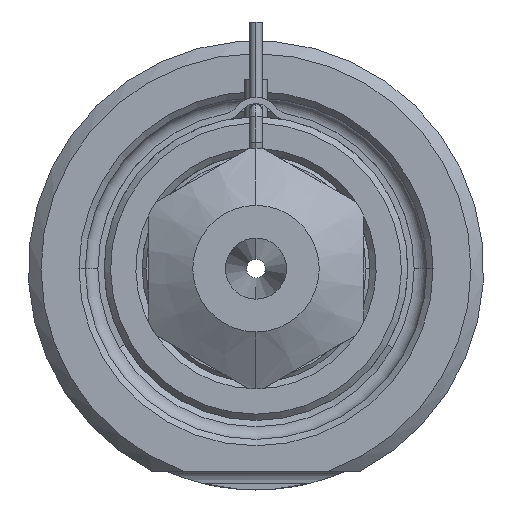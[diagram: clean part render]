
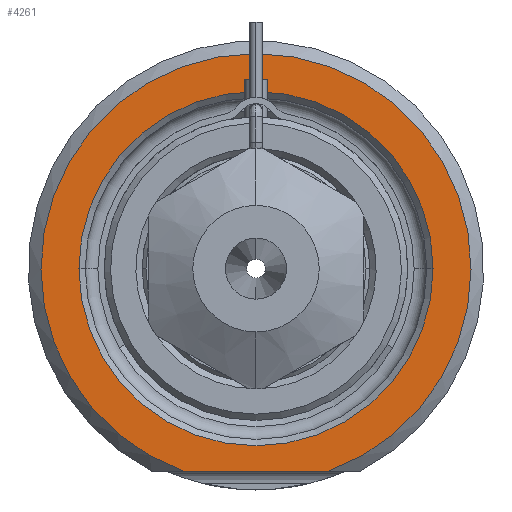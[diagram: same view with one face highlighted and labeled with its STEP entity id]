
A CAD part, front view. The second image highlights one B-rep face of the part: STEP entity #4261.
In plain terms, the highlighted planar face has unit normal (0, -1, 0).
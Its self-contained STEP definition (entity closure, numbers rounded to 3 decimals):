
#1338=CARTESIAN_POINT('',(0.,0.,0.));
#1339=DIRECTION('',(0.,-1.,0.));
#1340=DIRECTION('',(0.338,0.,-0.941));
#1341=AXIS2_PLACEMENT_3D('',#1338,#1339,#1340);
#1362=DIRECTION('',(1.,0.,0.));
#1363=VECTOR('',#1362,11.489);
#1364=CARTESIAN_POINT('',(-5.745,0.,-16.));
#1365=LINE('',#1364,#1363);
#1366=CARTESIAN_POINT('',(0.,0.,0.));
#1367=DIRECTION('',(0.,1.,0.));
#1368=DIRECTION('',(-1.,0.,0.));
#1369=AXIS2_PLACEMENT_3D('',#1366,#1367,#1368);
#1371=CARTESIAN_POINT('',(0.,0.,0.));
#1372=DIRECTION('',(0.,1.,0.));
#1373=DIRECTION('',(1.,0.,0.));
#1374=AXIS2_PLACEMENT_3D('',#1371,#1372,#1373);
#2260=CARTESIAN_POINT('',(-14.,0.,0.));
#2261=CARTESIAN_POINT('',(14.,0.,0.));
#2262=VERTEX_POINT('',#2260);
#2263=VERTEX_POINT('',#2261);
#2300=CARTESIAN_POINT('',(-5.745,0.,-16.));
#2301=CARTESIAN_POINT('',(5.745,0.,-16.));
#2302=VERTEX_POINT('',#2300);
#2303=VERTEX_POINT('',#2301);
#4246=CARTESIAN_POINT('',(0.,0.,0.));
#4247=DIRECTION('',(0.,-1.,0.));
#4248=DIRECTION('',(1.,0.,0.));
#4249=AXIS2_PLACEMENT_3D('',#4246,#4247,#4248);
#4250=PLANE('',#4249);
#4251=ORIENTED_EDGE('',*,*,#4178,.F.);
#4252=ORIENTED_EDGE('',*,*,#4238,.F.);
#4253=EDGE_LOOP('',(#4251,#4252));
#4254=FACE_OUTER_BOUND('',#4253,.F.);
#4256=ORIENTED_EDGE('',*,*,#4255,.F.);
#4258=ORIENTED_EDGE('',*,*,#4257,.F.);
#4259=EDGE_LOOP('',(#4256,#4258));
#4260=FACE_BOUND('',#4259,.F.);
#4261=ADVANCED_FACE('',(#4254,#4260),#4250,.T.);
#1342=CIRCLE('',#1341,17.);
#1370=CIRCLE('',#1369,14.);
#1375=CIRCLE('',#1374,14.);
#4178=EDGE_CURVE('',#2302,#2303,#1365,.T.);
#4238=EDGE_CURVE('',#2303,#2302,#1342,.T.);
#4255=EDGE_CURVE('',#2262,#2263,#1370,.T.);
#4257=EDGE_CURVE('',#2263,#2262,#1375,.T.);
